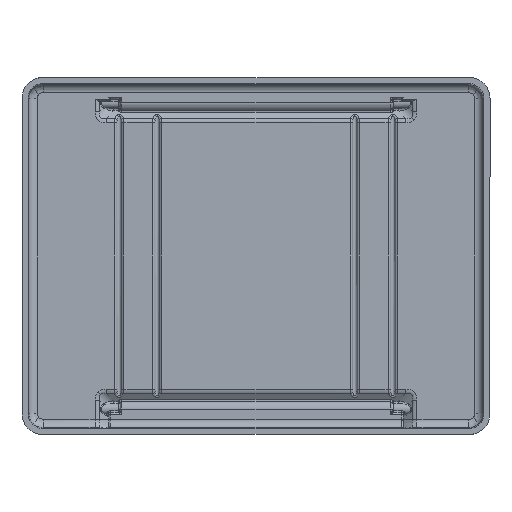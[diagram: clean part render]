
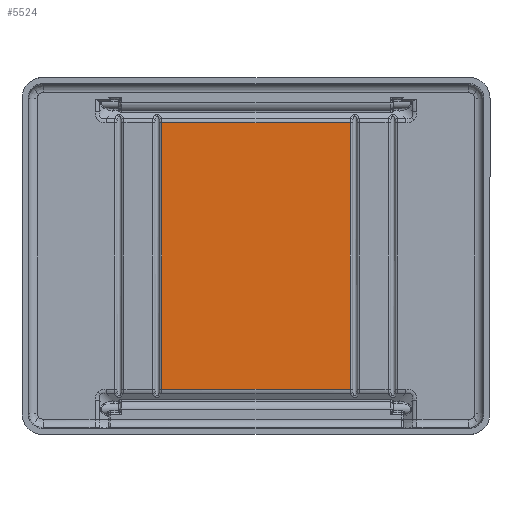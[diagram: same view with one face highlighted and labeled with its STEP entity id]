
A CAD part, front view. The second image highlights one B-rep face of the part: STEP entity #5524.
In plain terms, the highlighted planar face has unit normal (0, -1, 0).
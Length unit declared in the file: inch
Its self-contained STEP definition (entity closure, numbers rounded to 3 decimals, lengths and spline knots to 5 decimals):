
#2671 = CARTESIAN_POINT ( 'NONE',  ( -3.09125, 1.005, 4.37875 ) ) ;
#2672 = DIRECTION ( 'NONE',  ( -1., 0., 0. ) ) ;
#2673 = VECTOR ( 'NONE', #2672, 39.37008 ) ;
#2674 = CARTESIAN_POINT ( 'NONE',  ( 7.614, 1.005, 4.37875 ) ) ;
#2744 = LINE ( 'NONE', #2674, #2673 ) ;
#2745 = DIRECTION ( 'NONE',  ( 0., 0., 1. ) ) ;
#2746 = VECTOR ( 'NONE', #2745, 39.37008 ) ;
#2747 = CARTESIAN_POINT ( 'NONE',  ( 3.09125, 1.005, 4.37875 ) ) ;
#2748 = LINE ( 'NONE', #2747, #2746 ) ;
#2801 = CARTESIAN_POINT ( 'NONE',  ( -3.09125, 1.005, -4.37875 ) ) ;
#2861 = CARTESIAN_POINT ( 'NONE',  ( 3.09125, 1.005, 4.37875 ) ) ;
#2862 = DIRECTION ( 'NONE',  ( 1., 0., 0. ) ) ;
#2863 = VECTOR ( 'NONE', #2862, 39.37008 ) ;
#2864 = CARTESIAN_POINT ( 'NONE',  ( 7.614, 1.005, -4.37875 ) ) ;
#2865 = LINE ( 'NONE', #2864, #2863 ) ;
#2866 = DIRECTION ( 'NONE',  ( 0., 0., -1. ) ) ;
#2867 = DIRECTION ( 'NONE',  ( 0., -1., 0. ) ) ;
#2868 = AXIS2_PLACEMENT_3D ( 'NONE', #2876, #2867, #2866 ) ;
#2875 = FACE_OUTER_BOUND ( 'NONE', #5530, .T. ) ;
#2876 = CARTESIAN_POINT ( 'NONE',  ( 7.614, 1.005, 5.789 ) ) ;
#2878 = PLANE ( 'NONE',  #2868 ) ;
#2885 = DIRECTION ( 'NONE',  ( 0., 0., -1. ) ) ;
#2886 = VECTOR ( 'NONE', #2885, 39.37008 ) ;
#2887 = CARTESIAN_POINT ( 'NONE',  ( -3.09125, 1.005, -4.37875 ) ) ;
#2888 = LINE ( 'NONE', #2887, #2886 ) ;
#2889 = CARTESIAN_POINT ( 'NONE',  ( 3.09125, 1.005, -4.37875 ) ) ;
#5409 = EDGE_CURVE ( 'NONE', #5536, #5532, #2748, .T. ) ;
#5411 = ORIENTED_EDGE ( 'NONE', *, *, #5413, .T. ) ;
#5413 = EDGE_CURVE ( 'NONE', #5532, #5414, #2744, .T. ) ;
#5414 = VERTEX_POINT ( 'NONE', #2671 ) ;
#5424 = VERTEX_POINT ( 'NONE', #2801 ) ;
#5522 = ORIENTED_EDGE ( 'NONE', *, *, #5409, .T. ) ;
#5524 = ADVANCED_FACE ( 'NONE', ( #2875 ), #2878, .T. ) ;
#5526 = EDGE_CURVE ( 'NONE', #5424, #5536, #2865, .T. ) ;
#5530 = EDGE_LOOP ( 'NONE', ( #5531, #5522, #5411, #5537 ) ) ;
#5531 = ORIENTED_EDGE ( 'NONE', *, *, #5526, .T. ) ;
#5532 = VERTEX_POINT ( 'NONE', #2861 ) ;
#5536 = VERTEX_POINT ( 'NONE', #2889 ) ;
#5537 = ORIENTED_EDGE ( 'NONE', *, *, #5538, .T. ) ;
#5538 = EDGE_CURVE ( 'NONE', #5414, #5424, #2888, .T. ) ;
